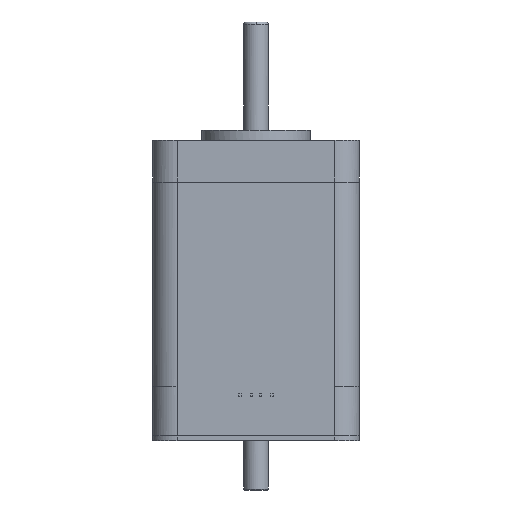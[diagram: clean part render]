
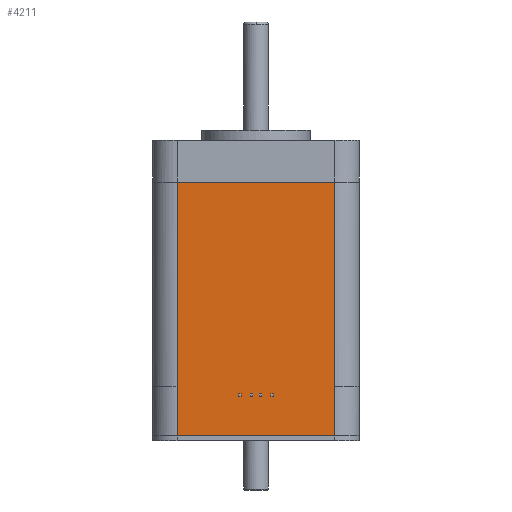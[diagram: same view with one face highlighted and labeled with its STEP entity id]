
A CAD part, front view. The second image highlights one B-rep face of the part: STEP entity #4211.
In plain terms, the highlighted planar face has unit normal (0, -1, 0).
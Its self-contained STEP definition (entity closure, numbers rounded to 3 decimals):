
#4 = CARTESIAN_POINT ( 'NONE',  ( 15.958, -20.95, -22.333 ) ) ;
#160 = AXIS2_PLACEMENT_3D ( 'NONE', #6257, #2417, #236 ) ;
#206 = B_SPLINE_CURVE_WITH_KNOTS ( 'NONE', 3,
 ( #6102, #6170, #5590, #2848 ),
 .UNSPECIFIED., .F., .F.,
 ( 4, 4 ),
 ( 0., 1. ),
 .UNSPECIFIED. ) ;
#236 = DIRECTION ( 'NONE',  ( 0., 0., 1. ) ) ;
#285 = VECTOR ( 'NONE', #4522, 1000. ) ;
#527 = CARTESIAN_POINT ( 'NONE',  ( 0., -20.95, -60. ) ) ;
#612 = EDGE_LOOP ( 'NONE', ( #3866, #1880, #4348, #2466, #5621, #1833 ) ) ;
#885 = LINE ( 'NONE', #2260, #285 ) ;
#937 = CARTESIAN_POINT ( 'NONE',  ( 16., -20.95, -60. ) ) ;
#993 = CARTESIAN_POINT ( 'NONE',  ( 15.975, -20.95, -50. ) ) ;
#1103 = EDGE_CURVE ( 'NONE', #3265, #5881, #5127, .T. ) ;
#1117 = CARTESIAN_POINT ( 'NONE',  ( -15.958, -20.95, -22.333 ) ) ;
#1720 = CARTESIAN_POINT ( 'NONE',  ( -15.975, -20.95, -50. ) ) ;
#1821 = VECTOR ( 'NONE', #3308, 1000. ) ;
#1833 = ORIENTED_EDGE ( 'NONE', *, *, #1841, .F. ) ;
#1841 = EDGE_CURVE ( 'NONE', #3528, #3265, #206, .T. ) ;
#1880 = ORIENTED_EDGE ( 'NONE', *, *, #3192, .F. ) ;
#2091 = B_SPLINE_CURVE_WITH_KNOTS ( 'NONE', 3,
 ( #3681, #4, #2234, #2183 ),
 .UNSPECIFIED., .F., .F.,
 ( 4, 4 ),
 ( 0., 1. ),
 .UNSPECIFIED. ) ;
#2183 = CARTESIAN_POINT ( 'NONE',  ( 15.975, -20.95, -50. ) ) ;
#2234 = CARTESIAN_POINT ( 'NONE',  ( 15.967, -20.95, -36.167 ) ) ;
#2260 = CARTESIAN_POINT ( 'NONE',  ( 0., -20.95, -8.5 ) ) ;
#2394 = PLANE ( 'NONE',  #160 ) ;
#2417 = DIRECTION ( 'NONE',  ( 0., 1., 0. ) ) ;
#2466 = ORIENTED_EDGE ( 'NONE', *, *, #6668, .F. ) ;
#2848 = CARTESIAN_POINT ( 'NONE',  ( -15.975, -20.95, -50. ) ) ;
#3134 = CARTESIAN_POINT ( 'NONE',  ( 15.95, -20.95, -8.5 ) ) ;
#3192 = EDGE_CURVE ( 'NONE', #4827, #4719, #3390, .T. ) ;
#3197 = EDGE_CURVE ( 'NONE', #4131, #4827, #2091, .T. ) ;
#3265 = VERTEX_POINT ( 'NONE', #1720 ) ;
#3308 = DIRECTION ( 'NONE',  ( -1., 0., 0. ) ) ;
#3390 = B_SPLINE_CURVE_WITH_KNOTS ( 'NONE', 3,
 ( #5546, #5569, #6104, #5038 ),
 .UNSPECIFIED., .F., .F.,
 ( 4, 4 ),
 ( 0., 1. ),
 .UNSPECIFIED. ) ;
#3528 = VERTEX_POINT ( 'NONE', #4760 ) ;
#3681 = CARTESIAN_POINT ( 'NONE',  ( 15.95, -20.95, -8.5 ) ) ;
#3866 = ORIENTED_EDGE ( 'NONE', *, *, #6063, .F. ) ;
#4131 = VERTEX_POINT ( 'NONE', #3134 ) ;
#4211 = ADVANCED_FACE ( 'NONE', ( #5351 ), #2394, .F. ) ;
#4348 = ORIENTED_EDGE ( 'NONE', *, *, #3197, .F. ) ;
#4354 = CARTESIAN_POINT ( 'NONE',  ( -15.95, -20.95, -8.5 ) ) ;
#4522 = DIRECTION ( 'NONE',  ( 1., 0., 0. ) ) ;
#4719 = VERTEX_POINT ( 'NONE', #937 ) ;
#4760 = CARTESIAN_POINT ( 'NONE',  ( -16., -20.95, -60. ) ) ;
#4827 = VERTEX_POINT ( 'NONE', #993 ) ;
#4903 = CARTESIAN_POINT ( 'NONE',  ( -15.975, -20.95, -50. ) ) ;
#5038 = CARTESIAN_POINT ( 'NONE',  ( 16., -20.95, -60. ) ) ;
#5127 = B_SPLINE_CURVE_WITH_KNOTS ( 'NONE', 3,
 ( #4903, #5478, #1117, #4354 ),
 .UNSPECIFIED., .F., .F.,
 ( 4, 4 ),
 ( 0., 1. ),
 .UNSPECIFIED. ) ;
#5351 = FACE_OUTER_BOUND ( 'NONE', #612, .T. ) ;
#5478 = CARTESIAN_POINT ( 'NONE',  ( -15.967, -20.95, -36.167 ) ) ;
#5546 = CARTESIAN_POINT ( 'NONE',  ( 15.975, -20.95, -50. ) ) ;
#5556 = LINE ( 'NONE', #527, #1821 ) ;
#5569 = CARTESIAN_POINT ( 'NONE',  ( 15.983, -20.95, -53.333 ) ) ;
#5590 = CARTESIAN_POINT ( 'NONE',  ( -15.983, -20.95, -53.333 ) ) ;
#5621 = ORIENTED_EDGE ( 'NONE', *, *, #1103, .F. ) ;
#5881 = VERTEX_POINT ( 'NONE', #6484 ) ;
#6063 = EDGE_CURVE ( 'NONE', #4719, #3528, #5556, .T. ) ;
#6102 = CARTESIAN_POINT ( 'NONE',  ( -16., -20.95, -60. ) ) ;
#6104 = CARTESIAN_POINT ( 'NONE',  ( 15.992, -20.95, -56.667 ) ) ;
#6170 = CARTESIAN_POINT ( 'NONE',  ( -15.992, -20.95, -56.667 ) ) ;
#6257 = CARTESIAN_POINT ( 'NONE',  ( 0., -20.95, 0. ) ) ;
#6484 = CARTESIAN_POINT ( 'NONE',  ( -15.95, -20.95, -8.5 ) ) ;
#6668 = EDGE_CURVE ( 'NONE', #5881, #4131, #885, .T. ) ;
